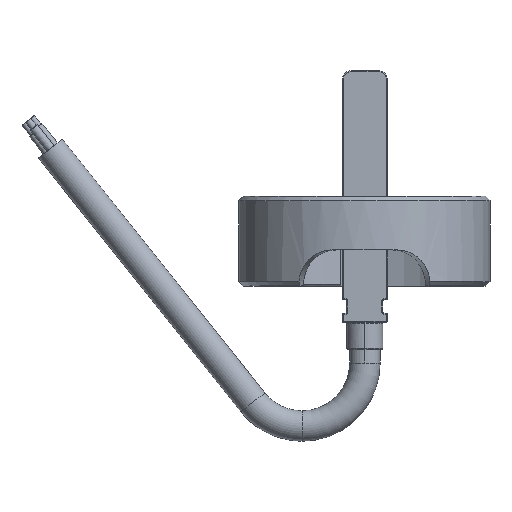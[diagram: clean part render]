
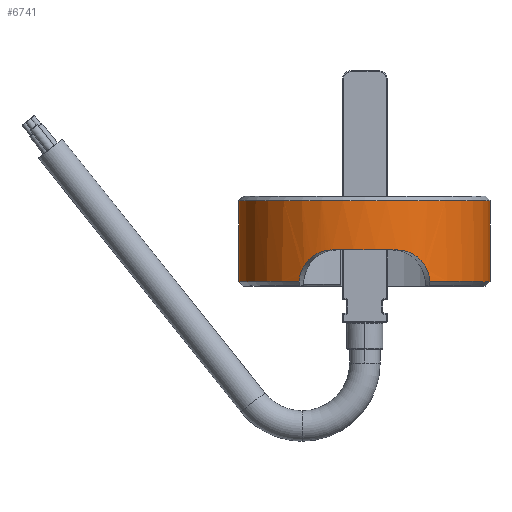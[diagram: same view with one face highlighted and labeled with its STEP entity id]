
A CAD part, top view. The second image highlights one B-rep face of the part: STEP entity #6741.
In plain terms, the highlighted cylindrical face has radius 14 mm (diameter 28 mm), a partial arc.
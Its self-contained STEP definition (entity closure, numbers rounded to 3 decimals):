
#32 = AXIS2_PLACEMENT_3D ( 'NONE', #3669, #3586, #3585 ) ;
#35 = EDGE_CURVE ( 'NONE', #2719, #2772, #7960, .T. ) ;
#44 = AXIS2_PLACEMENT_3D ( 'NONE', #3844, #3841, #3840 ) ;
#69 = EDGE_CURVE ( 'NONE', #2779, #2755, #7947, .T. ) ;
#76 = EDGE_CURVE ( 'NONE', #2986, #2719, #7948, .T. ) ;
#129 = EDGE_CURVE ( 'NONE', #2982, #2860, #6528, .T. ) ;
#136 = EDGE_CURVE ( 'NONE', #3015, #2779, #6529, .T. ) ;
#137 = EDGE_CURVE ( 'NONE', #3015, #2860, #1558, .T. ) ;
#154 = EDGE_CURVE ( 'NONE', #2772, #2982, #1527, .T. ) ;
#170 = EDGE_CURVE ( 'NONE', #2986, #2755, #1242, .T. ) ;
#191 = AXIS2_PLACEMENT_3D ( 'NONE', #6472, #6471, #6470 ) ;
#207 = AXIS2_PLACEMENT_3D ( 'NONE', #6486, #6485, #6484 ) ;
#494 = CARTESIAN_POINT ( 'NONE',  ( 3.654, 24.5, 13.475 ) ) ;
#500 = CARTESIAN_POINT ( 'NONE',  ( 14., 30., -0.072 ) ) ;
#519 = CARTESIAN_POINT ( 'NONE',  ( -7.281, 21., 11.918 ) ) ;
#1094 = CYLINDRICAL_SURFACE ( 'NONE', #2397, 14. ) ;
#1102 = FACE_OUTER_BOUND ( 'NONE', #2814, .T. ) ;
#1242 = LINE ( 'NONE', #3866, #1279 ) ;
#1279 = VECTOR ( 'NONE', #3854, 1000. ) ;
#1527 = CIRCLE ( 'NONE', #32, 14. ) ;
#1558 = CIRCLE ( 'NONE', #44, 14. ) ;
#2397 = AXIS2_PLACEMENT_3D ( 'NONE', #5069, #5193, #5068 ) ;
#2453 = ORIENTED_EDGE ( 'NONE', *, *, #154, .T. ) ;
#2455 = ORIENTED_EDGE ( 'NONE', *, *, #129, .T. ) ;
#2482 = ORIENTED_EDGE ( 'NONE', *, *, #35, .T. ) ;
#2486 = ORIENTED_EDGE ( 'NONE', *, *, #76, .T. ) ;
#2579 = ORIENTED_EDGE ( 'NONE', *, *, #136, .T. ) ;
#2595 = ORIENTED_EDGE ( 'NONE', *, *, #170, .F. ) ;
#2602 = ORIENTED_EDGE ( 'NONE', *, *, #69, .T. ) ;
#2645 = ORIENTED_EDGE ( 'NONE', *, *, #137, .F. ) ;
#2719 = VERTEX_POINT ( 'NONE', #3697 ) ;
#2755 = VERTEX_POINT ( 'NONE', #3694 ) ;
#2772 = VERTEX_POINT ( 'NONE', #3686 ) ;
#2779 = VERTEX_POINT ( 'NONE', #3679 ) ;
#2814 = EDGE_LOOP ( 'NONE', ( #2486, #2482, #2453, #2455, #2645, #2579, #2602, #2595 ) ) ;
#2860 = VERTEX_POINT ( 'NONE', #3595 ) ;
#2982 = VERTEX_POINT ( 'NONE', #519 ) ;
#2986 = VERTEX_POINT ( 'NONE', #500 ) ;
#3015 = VERTEX_POINT ( 'NONE', #494 ) ;
#3585 = DIRECTION ( 'NONE',  ( -1., 0., 0.002 ) ) ;
#3586 = DIRECTION ( 'NONE',  ( 0., 1., 0. ) ) ;
#3595 = CARTESIAN_POINT ( 'NONE',  ( -3.593, 24.5, 13.491 ) ) ;
#3669 = CARTESIAN_POINT ( 'NONE',  ( 0., 21., -0.04 ) ) ;
#3674 = CARTESIAN_POINT ( 'NONE',  ( 6.726, 22.79, 12.239 ) ) ;
#3679 = CARTESIAN_POINT ( 'NONE',  ( 7.335, 21., 11.884 ) ) ;
#3686 = CARTESIAN_POINT ( 'NONE',  ( -14., 21., -0.008 ) ) ;
#3694 = CARTESIAN_POINT ( 'NONE',  ( 14., 21., -0.072 ) ) ;
#3697 = CARTESIAN_POINT ( 'NONE',  ( -14., 30., -0.008 ) ) ;
#3840 = DIRECTION ( 'NONE',  ( 1., 0., -0.002 ) ) ;
#3841 = DIRECTION ( 'NONE',  ( 0., -1., 0. ) ) ;
#3844 = CARTESIAN_POINT ( 'NONE',  ( 0., 24.5, -0.04 ) ) ;
#3854 = DIRECTION ( 'NONE',  ( 0., -1., 0. ) ) ;
#3855 = CARTESIAN_POINT ( 'NONE',  ( 7.048, 22.163, 12.057 ) ) ;
#3856 = CARTESIAN_POINT ( 'NONE',  ( 7.308, 21.242, 11.901 ) ) ;
#3861 = CARTESIAN_POINT ( 'NONE',  ( 7.335, 21., 11.884 ) ) ;
#3862 = CARTESIAN_POINT ( 'NONE',  ( 7.131, 21.942, 12.008 ) ) ;
#3863 = CARTESIAN_POINT ( 'NONE',  ( 6.846, 22.586, 12.172 ) ) ;
#3866 = CARTESIAN_POINT ( 'NONE',  ( 14., 30.5, -0.072 ) ) ;
#3868 = CARTESIAN_POINT ( 'NONE',  ( 7.261, 21.482, 11.93 ) ) ;
#3869 = CARTESIAN_POINT ( 'NONE',  ( 6.458, 23.166, 12.383 ) ) ;
#3870 = CARTESIAN_POINT ( 'NONE',  ( 6.309, 23.34, 12.459 ) ) ;
#3872 = CARTESIAN_POINT ( 'NONE',  ( 5.98, 23.657, 12.62 ) ) ;
#3874 = CARTESIAN_POINT ( 'NONE',  ( 5.799, 23.801, 12.704 ) ) ;
#5068 = DIRECTION ( 'NONE',  ( 1., 0., -0.002 ) ) ;
#5069 = CARTESIAN_POINT ( 'NONE',  ( 0., 30.5, -0.04 ) ) ;
#5193 = DIRECTION ( 'NONE',  ( 0., -1., 0. ) ) ;
#6300 = CARTESIAN_POINT ( 'NONE',  ( 5.219, 24.154, 12.953 ) ) ;
#6301 = CARTESIAN_POINT ( 'NONE',  ( 4.794, 24.325, 13.116 ) ) ;
#6302 = CARTESIAN_POINT ( 'NONE',  ( 4.572, 24.391, 13.195 ) ) ;
#6303 = CARTESIAN_POINT ( 'NONE',  ( 3.654, 24.5, 13.475 ) ) ;
#6307 = CARTESIAN_POINT ( 'NONE',  ( 5.419, 24.048, 12.87 ) ) ;
#6308 = CARTESIAN_POINT ( 'NONE',  ( 4.121, 24.478, 13.342 ) ) ;
#6309 = CARTESIAN_POINT ( 'NONE',  ( 3.89, 24.5, 13.411 ) ) ;
#6320 = CARTESIAN_POINT ( 'NONE',  ( -3.593, 24.5, 13.491 ) ) ;
#6321 = CARTESIAN_POINT ( 'NONE',  ( -3.829, 24.5, 13.428 ) ) ;
#6322 = CARTESIAN_POINT ( 'NONE',  ( -4.064, 24.477, 13.359 ) ) ;
#6323 = CARTESIAN_POINT ( 'NONE',  ( -4.517, 24.389, 13.214 ) ) ;
#6324 = CARTESIAN_POINT ( 'NONE',  ( -4.736, 24.325, 13.137 ) ) ;
#6325 = CARTESIAN_POINT ( 'NONE',  ( -5.159, 24.154, 12.977 ) ) ;
#6326 = CARTESIAN_POINT ( 'NONE',  ( -5.364, 24.046, 12.893 ) ) ;
#6327 = CARTESIAN_POINT ( 'NONE',  ( -5.745, 23.798, 12.729 ) ) ;
#6328 = CARTESIAN_POINT ( 'NONE',  ( -5.922, 23.657, 12.647 ) ) ;
#6329 = CARTESIAN_POINT ( 'NONE',  ( -6.252, 23.339, 12.488 ) ) ;
#6330 = CARTESIAN_POINT ( 'NONE',  ( -6.404, 23.163, 12.41 ) ) ;
#6331 = CARTESIAN_POINT ( 'NONE',  ( -6.672, 22.787, 12.269 ) ) ;
#6332 = CARTESIAN_POINT ( 'NONE',  ( -6.79, 22.587, 12.204 ) ) ;
#6333 = CARTESIAN_POINT ( 'NONE',  ( -6.994, 22.16, 12.088 ) ) ;
#6334 = CARTESIAN_POINT ( 'NONE',  ( -7.078, 21.936, 12.039 ) ) ;
#6335 = CARTESIAN_POINT ( 'NONE',  ( -7.281, 21., 11.918 ) ) ;
#6355 = CARTESIAN_POINT ( 'NONE',  ( -7.207, 21.478, 11.963 ) ) ;
#6356 = CARTESIAN_POINT ( 'NONE',  ( -7.254, 21.242, 11.934 ) ) ;
#6470 = DIRECTION ( 'NONE',  ( -1., 0., 0.002 ) ) ;
#6471 = DIRECTION ( 'NONE',  ( 0., -1., 0. ) ) ;
#6472 = CARTESIAN_POINT ( 'NONE',  ( 0., 30., -0.04 ) ) ;
#6484 = DIRECTION ( 'NONE',  ( -1., 0., 0.002 ) ) ;
#6485 = DIRECTION ( 'NONE',  ( 0., 1., 0. ) ) ;
#6486 = CARTESIAN_POINT ( 'NONE',  ( 0., 21., -0.04 ) ) ;
#6519 = DIRECTION ( 'NONE',  ( 0., -1., 0. ) ) ;
#6520 = CARTESIAN_POINT ( 'NONE',  ( -14., 30.5, -0.008 ) ) ;
#6528 = B_SPLINE_CURVE_WITH_KNOTS ( 'NONE', 3,
 ( #6335, #6356, #6355, #6334, #6333, #6332, #6331, #6330, #6329, #6328, #6327, #6326, #6325, #6324, #6323, #6322, #6321, #6320 ),
 .UNSPECIFIED., .F., .F.,
 ( 4, 2, 2, 2, 2, 2, 2, 2, 4 ),
 ( 0., 0.001, 0.001, 0.002, 0.003, 0.004, 0.004, 0.005, 0.006 ),
 .UNSPECIFIED. ) ;
#6529 = B_SPLINE_CURVE_WITH_KNOTS ( 'NONE', 3,
 ( #6303, #6309, #6308, #6302, #6301, #6300, #6307, #3874, #3872, #3870, #3869, #3674, #3863, #3855, #3862, #3868, #3856, #3861 ),
 .UNSPECIFIED., .F., .F.,
 ( 4, 2, 2, 2, 2, 2, 2, 2, 4 ),
 ( 0., 0.001, 0.001, 0.002, 0.003, 0.004, 0.004, 0.005, 0.006 ),
 .UNSPECIFIED. ) ;
#6741 = ADVANCED_FACE ( 'NONE', ( #1102 ), #1094, .T. ) ;
#7940 = VECTOR ( 'NONE', #6519, 1000. ) ;
#7947 = CIRCLE ( 'NONE', #207, 14. ) ;
#7948 = CIRCLE ( 'NONE', #191, 14. ) ;
#7960 = LINE ( 'NONE', #6520, #7940 ) ;
